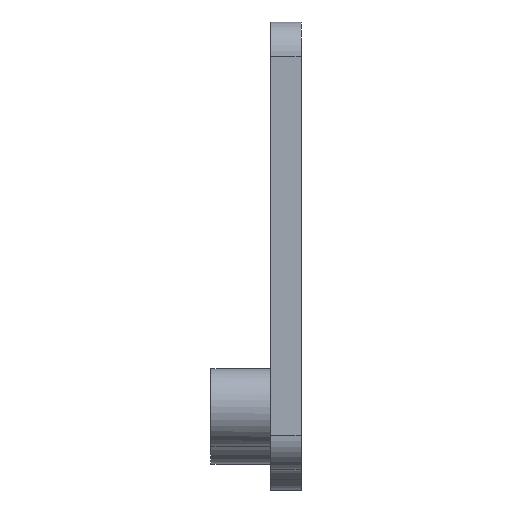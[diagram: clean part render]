
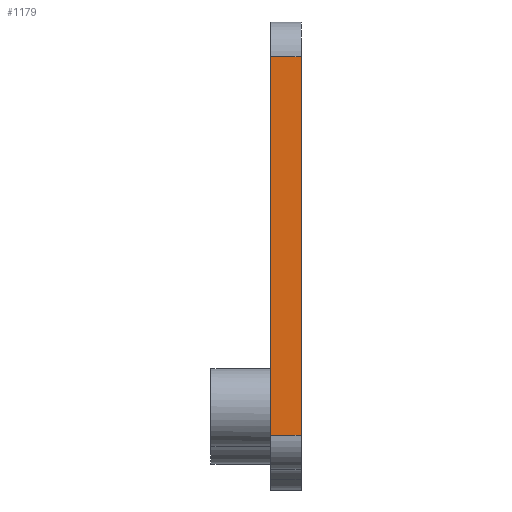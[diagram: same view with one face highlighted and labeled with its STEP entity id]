
A CAD part, left-side view. The second image highlights one B-rep face of the part: STEP entity #1179.
In plain terms, the highlighted planar face has unit normal (-1, 0, 0).
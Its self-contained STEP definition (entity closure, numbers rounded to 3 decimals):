
#398 = EDGE_LOOP ( 'NONE', ( #9985, #9529, #13679, #12244 ) ) ;
#429 = LINE ( 'NONE', #4106, #3975 ) ;
#704 = CARTESIAN_POINT ( 'NONE',  ( -56.5, 132.54, -24.66 ) ) ;
#873 = AXIS2_PLACEMENT_3D ( 'NONE', #704, #8693, #2934 ) ;
#989 = EDGE_CURVE ( 'NONE', #1230, #14593, #8308, .T. ) ;
#1113 = VECTOR ( 'NONE', #3040, 1000. ) ;
#1127 = VECTOR ( 'NONE', #4712, 1000. ) ;
#1179 = ADVANCED_FACE ( 'NONE', ( #7473 ), #10909, .F. ) ;
#1230 = VERTEX_POINT ( 'NONE', #9911 ) ;
#2792 = DIRECTION ( 'NONE',  ( 0., 0., 1. ) ) ;
#2934 = DIRECTION ( 'NONE',  ( 0., 0., -1. ) ) ;
#3040 = DIRECTION ( 'NONE',  ( 0., -1., 0. ) ) ;
#3267 = EDGE_CURVE ( 'NONE', #1230, #10352, #8998, .T. ) ;
#3643 = CARTESIAN_POINT ( 'NONE',  ( -56.5, 8.5, 0. ) ) ;
#3914 = CARTESIAN_POINT ( 'NONE',  ( -56.5, 5., 23. ) ) ;
#3931 = CARTESIAN_POINT ( 'NONE',  ( -56.5, 5., -24.66 ) ) ;
#3975 = VECTOR ( 'NONE', #6264, 1000. ) ;
#4106 = CARTESIAN_POINT ( 'NONE',  ( -56.5, 132.54, 23. ) ) ;
#4712 = DIRECTION ( 'NONE',  ( 0., 0., 1. ) ) ;
#5392 = CARTESIAN_POINT ( 'NONE',  ( -56.5, 132.54, -20.66 ) ) ;
#6264 = DIRECTION ( 'NONE',  ( 0., 1., 0. ) ) ;
#7473 = FACE_OUTER_BOUND ( 'NONE', #398, .T. ) ;
#7560 = CARTESIAN_POINT ( 'NONE',  ( -56.5, 5., -20.66 ) ) ;
#8308 = LINE ( 'NONE', #3643, #1127 ) ;
#8693 = DIRECTION ( 'NONE',  ( 1., 0., 0. ) ) ;
#8998 = LINE ( 'NONE', #5392, #1113 ) ;
#9529 = ORIENTED_EDGE ( 'NONE', *, *, #3267, .T. ) ;
#9603 = EDGE_CURVE ( 'NONE', #10352, #13299, #9830, .T. ) ;
#9830 = LINE ( 'NONE', #3931, #10312 ) ;
#9911 = CARTESIAN_POINT ( 'NONE',  ( -56.5, 8.5, -20.66 ) ) ;
#9985 = ORIENTED_EDGE ( 'NONE', *, *, #989, .F. ) ;
#10312 = VECTOR ( 'NONE', #2792, 1000. ) ;
#10352 = VERTEX_POINT ( 'NONE', #7560 ) ;
#10909 = PLANE ( 'NONE',  #873 ) ;
#11567 = EDGE_CURVE ( 'NONE', #13299, #14593, #429, .T. ) ;
#12244 = ORIENTED_EDGE ( 'NONE', *, *, #11567, .T. ) ;
#13299 = VERTEX_POINT ( 'NONE', #3914 ) ;
#13679 = ORIENTED_EDGE ( 'NONE', *, *, #9603, .T. ) ;
#14128 = CARTESIAN_POINT ( 'NONE',  ( -56.5, 8.5, 23. ) ) ;
#14593 = VERTEX_POINT ( 'NONE', #14128 ) ;
